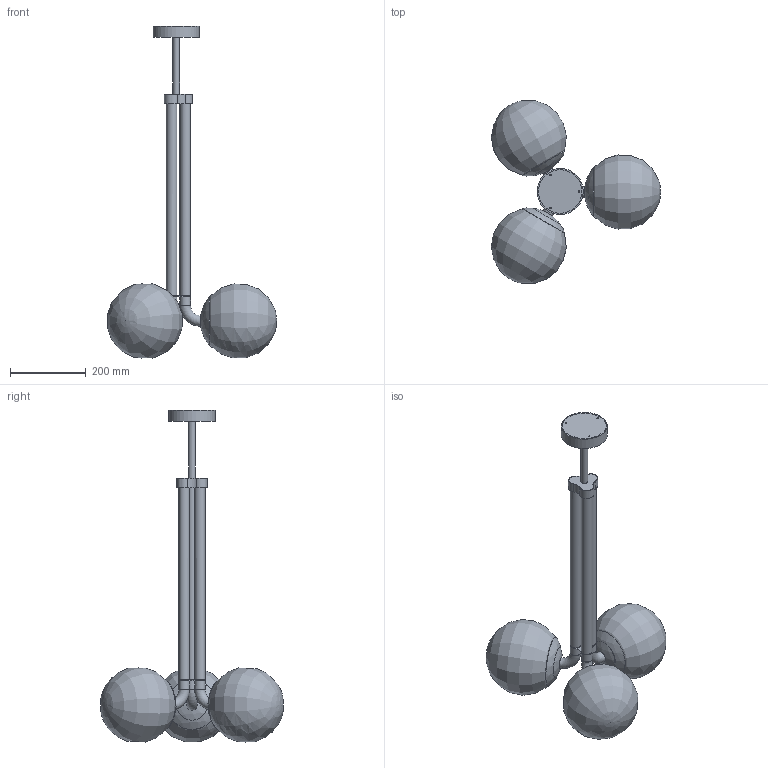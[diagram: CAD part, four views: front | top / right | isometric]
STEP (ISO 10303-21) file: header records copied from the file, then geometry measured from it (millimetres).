
FILE_DESCRIPTION(/* description */ (''),/* implementation_level */ '2;1');
FILE_NAME(/* name */ 'T:\B150 Tubular 700\Pliki bryłowe handlowe\B150 Tubular MD 3D files\B150 Tubular MD.stp',/* time_stamp */ '2022-01-24T16:56:15+01:00',/* author */ ('Mariusz Awariusz'),/* organization */ (''),/* preprocessor_version */ 'ST-DEVELOPER v18.1',/* originating_system */ 'Autodesk Inventor 2022',/* authorisation */ '');
FILE_SCHEMA (('AUTOMOTIVE_DESIGN { 1 0 10303 214 3 1 1 }'));
Length unit declared in the file: millimetre
Products named in the file (1): Tubular 700 CE V7_na potrzeby plików 3D_2_jako część
Bounding box: 446.74 x 482.82 x 876.76 mm (x, y, z)
Volume: 2216807.8 mm3; surface area: 1038235.7 mm2
Topology: 4 solids, 4 shells, 82 faces, 172 edges, 116 vertices
Faces by surface type: cylinder 29, plane 23, torus 12, sphere 9, bspline 6, cone 3
Full cylindrical faces by diameter (mm): 10 x3, 18 x1, 25 x3, 28 x6, 80.221 x3, 122 x1
Entity records: 2712 total; most frequent: CARTESIAN_POINT 827, DIRECTION 436, ORIENTED_EDGE 332, AXIS2_PLACEMENT_3D 199, EDGE_CURVE 166, CIRCLE 122, VERTEX_POINT 116, EDGE_LOOP 110
